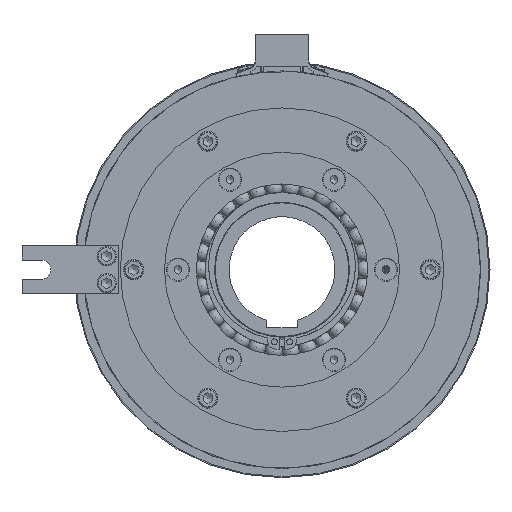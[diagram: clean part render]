
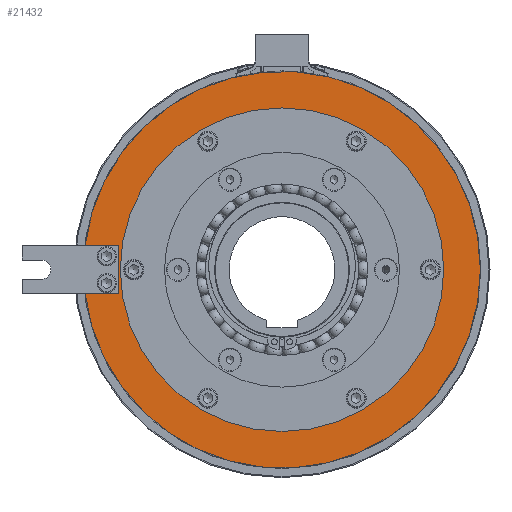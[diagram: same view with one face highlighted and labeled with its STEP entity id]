
A CAD part, left-side view. The second image highlights one B-rep face of the part: STEP entity #21432.
In plain terms, the highlighted planar face has unit normal (-1, 0, 0).
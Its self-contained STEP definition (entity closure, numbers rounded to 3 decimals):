
#776=PLANE('',#23752);
#1208=FACE_BOUND('',#3922,.T.);
#2574=FACE_OUTER_BOUND('',#3921,.T.);
#3921=EDGE_LOOP('',(#18106,#18107,#18108,#18109,#18110,#18111));
#3922=EDGE_LOOP('',(#18112,#18113));
#4297=CIRCLE('',#21787,103.);
#4300=CIRCLE('',#21790,103.);
#5455=CIRCLE('',#23662,84.);
#5456=CIRCLE('',#23663,84.);
#5519=CIRCLE('',#23753,103.);
#6396=LINE('',#43068,#7358);
#6397=LINE('',#43070,#7359);
#6398=LINE('',#43071,#7360);
#7358=VECTOR('',#28901,10.);
#7359=VECTOR('',#28902,10.);
#7360=VECTOR('',#28903,10.);
#7758=VERTEX_POINT('',#30593);
#7763=VERTEX_POINT('',#30603);
#7764=VERTEX_POINT('',#30605);
#7766=VERTEX_POINT('',#30609);
#9494=VERTEX_POINT('',#42737);
#9495=VERTEX_POINT('',#42738);
#9560=VERTEX_POINT('',#43067);
#9561=VERTEX_POINT('',#43069);
#10056=EDGE_CURVE('',#7764,#7763,#4297,.T.);
#10059=EDGE_CURVE('',#7758,#7766,#4300,.T.);
#12419=EDGE_CURVE('',#9494,#9495,#5455,.T.);
#12420=EDGE_CURVE('',#9495,#9494,#5456,.T.);
#12510=EDGE_CURVE('',#7766,#9560,#6396,.T.);
#12511=EDGE_CURVE('',#9560,#9561,#6397,.T.);
#12512=EDGE_CURVE('',#9561,#7764,#6398,.T.);
#12513=EDGE_CURVE('',#7763,#7758,#5519,.T.);
#18106=ORIENTED_EDGE('',*,*,#12510,.T.);
#18107=ORIENTED_EDGE('',*,*,#12511,.T.);
#18108=ORIENTED_EDGE('',*,*,#12512,.T.);
#18109=ORIENTED_EDGE('',*,*,#10056,.T.);
#18110=ORIENTED_EDGE('',*,*,#12513,.T.);
#18111=ORIENTED_EDGE('',*,*,#10059,.T.);
#18112=ORIENTED_EDGE('',*,*,#12419,.T.);
#18113=ORIENTED_EDGE('',*,*,#12420,.T.);
#21432=ADVANCED_FACE('',(#2574,#1208),#776,.T.);
#21787=AXIS2_PLACEMENT_3D('',#30606,#24410,#24411);
#21790=AXIS2_PLACEMENT_3D('',#30611,#24416,#24417);
#23662=AXIS2_PLACEMENT_3D('',#42739,#28703,#28704);
#23663=AXIS2_PLACEMENT_3D('',#42740,#28705,#28706);
#23752=AXIS2_PLACEMENT_3D('',#43066,#28899,#28900);
#23753=AXIS2_PLACEMENT_3D('',#43072,#28904,#28905);
#24410=DIRECTION('center_axis',(-1.,0.,0.));
#24411=DIRECTION('ref_axis',(0.,1.,0.));
#24416=DIRECTION('center_axis',(-1.,0.,0.));
#24417=DIRECTION('ref_axis',(0.,1.,0.));
#28703=DIRECTION('center_axis',(1.,0.,0.));
#28704=DIRECTION('ref_axis',(0.,1.,0.));
#28705=DIRECTION('center_axis',(1.,0.,0.));
#28706=DIRECTION('ref_axis',(0.,1.,0.));
#28899=DIRECTION('center_axis',(-1.,0.,0.));
#28900=DIRECTION('ref_axis',(0.,0.,
1.));
#28901=DIRECTION('',(0.,-1.,0.));
#28902=DIRECTION('',(0.,0.,-1.));
#28903=DIRECTION('',(0.,1.,0.));
#28904=DIRECTION('center_axis',(-1.,0.,0.));
#28905=DIRECTION('ref_axis',(0.,1.,0.));
#30593=CARTESIAN_POINT('',(-15.5,9.681,102.544));
#30603=CARTESIAN_POINT('',(-15.5,-103.,0.));
#30605=CARTESIAN_POINT('',(-15.5,102.239,-12.5));
#30606=CARTESIAN_POINT('Origin',(-15.5,0.,0.));
#30609=CARTESIAN_POINT('',(-15.5,102.239,12.5));
#30611=CARTESIAN_POINT('Origin',(-15.5,0.,0.));
#42737=CARTESIAN_POINT('',(-15.5,84.,0.));
#42738=CARTESIAN_POINT('',(-15.5,-84.,0.));
#42739=CARTESIAN_POINT('Origin',(-15.5,0.,0.));
#42740=CARTESIAN_POINT('Origin',(-15.5,0.,0.));
#43066=CARTESIAN_POINT('Origin',(-15.5,87.5,0.));
#43067=CARTESIAN_POINT('',(-15.5,85.,12.5));
#43068=CARTESIAN_POINT('',(-15.5,86.25,12.5));
#43069=CARTESIAN_POINT('',(-15.5,85.,-12.5));
#43070=CARTESIAN_POINT('',(-15.5,85.,-6.25));
#43071=CARTESIAN_POINT('',(-15.5,111.25,-12.5));
#43072=CARTESIAN_POINT('Origin',(-15.5,0.,0.));
